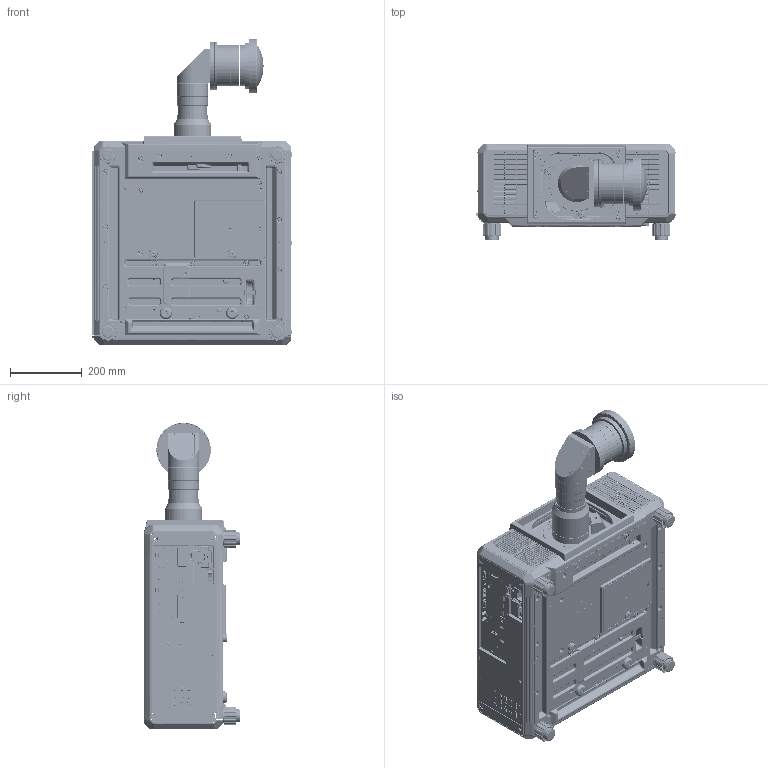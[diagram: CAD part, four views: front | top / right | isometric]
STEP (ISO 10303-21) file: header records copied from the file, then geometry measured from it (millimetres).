
FILE_DESCRIPTION(/* description */ (''),/* implementation_level */ '2;1');
FILE_NAME(/* name */ '01103256_ZA00_RQ25K_D3LEU100_FACE.stp',/* time_stamp */ '2022-12-05T14:32:35+09:00',/* author */ (''),/* organization */ (''),/* preprocessor_version */ 'ST-DEVELOPER v16',/* originating_system */ 'SIEMENS PLM Software NX 10.0',/* authorisation */ '');
FILE_SCHEMA (('AUTOMOTIVE_DESIGN { 1 0 10303 214 3 1 1 1 }'));
Products named in the file (1): 01103256_ZA00
Bounding box: 556.3 x 269 x 855.62 mm (x, y, z)
Surface area: 1979401.3 mm2 (no closed solid volume)
Topology: 0 solids, 2241 shells, 9756 faces, 44242 edges, 36201 vertices
Faces by surface type: plane 4911, cylinder 3767, torus 440, bspline 364, cone 162, sphere 110, extrusion 2
Full cylindrical faces by diameter (mm): 1.02 x2, 3 x2, 3.3 x1, 3.6 x2, 4 x1, 4.5 x1, 5 x2, 5.5 x2, 6 x2, 7 x2, 8 x3, 8.2 x3, 9.5 x2, 37.2 x4, 40 x4, 81.4 x1, 84.8 x1, 85 x1, 88 x1, 104 x2, 115.3 x5, 123.5 x1, 128.6 x2, 129.2 x1, 129.8 x1, 132.4 x1, 132.6 x1, 133 x1, 152 x2, 152.02 x1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
Entity records: 538677 total; most frequent: CARTESIAN_POINT 124000, DIRECTION 72613, ORIENTED_EDGE 53425, EDGE_CURVE 43728, VERTEX_POINT 36046, VECTOR 24717, LINE 24715, AXIS2_PLACEMENT_3D 23948
